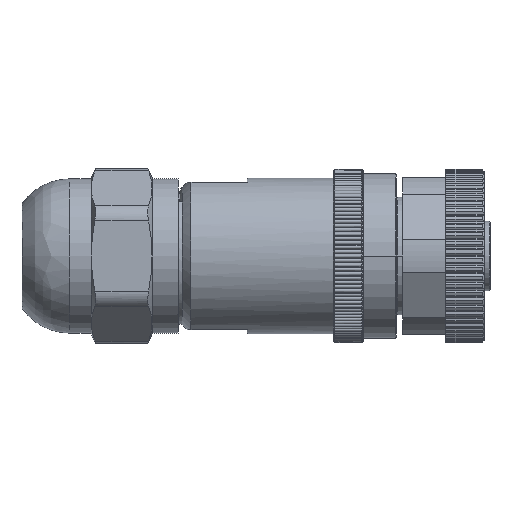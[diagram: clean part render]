
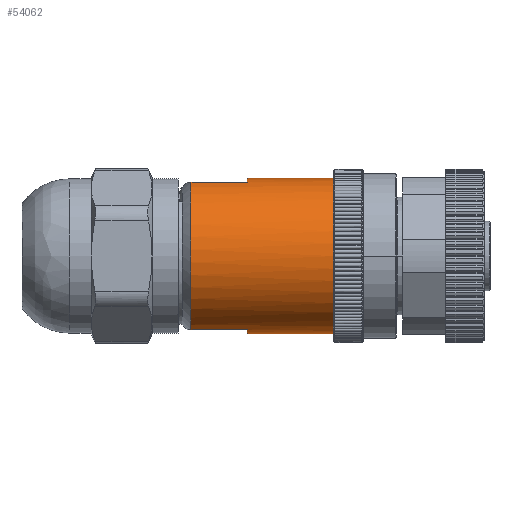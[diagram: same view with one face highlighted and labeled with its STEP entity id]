
A CAD part, left-side view. The second image highlights one B-rep face of the part: STEP entity #54062.
In plain terms, the highlighted cylindrical face has radius 8.95 mm (diameter 17.9 mm), a partial arc.
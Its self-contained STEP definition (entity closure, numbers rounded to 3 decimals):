
#11277=CARTESIAN_POINT('',(0.,5.068,-8.95));
#11279=CARTESIAN_POINT('',(0.,4.757,-8.95));
#13874=CARTESIAN_POINT('',(0.,5.068,-8.95));
#13875=CARTESIAN_POINT('',(-0.268,5.071,-8.95));
#13876=CARTESIAN_POINT('',(-0.805,5.079,
-8.926));
#13877=CARTESIAN_POINT('',(-1.603,5.089,
-8.817));
#13878=CARTESIAN_POINT('',(-2.127,5.096,
-8.698));
#13879=CARTESIAN_POINT('',(-2.386,5.1,-8.626));
#13881=CARTESIAN_POINT('',(0.,5.1,0.));
#13882=DIRECTION('',(0.,-1.,0.));
#13883=DIRECTION('',(-0.267,0.,-0.964));
#13884=AXIS2_PLACEMENT_3D('',#13881,#13882,#13883);
#13886=DIRECTION('',(0.,-1.,0.));
#13887=VECTOR('',#13886,9.9);
#13888=CARTESIAN_POINT('',(0.,15.,-8.95));
#13889=LINE('',#13888,#13887);
#13890=DIRECTION('',(0.,-1.,0.));
#13891=VECTOR('',#13890,6.5);
#13892=CARTESIAN_POINT('',(-2.802,21.5,
-8.5));
#13893=LINE('',#13892,#13891);
#13894=DIRECTION('',(0.,1.,0.));
#13895=VECTOR('',#13894,6.5);
#13896=CARTESIAN_POINT('',(-2.802,15.,8.5));
#13897=LINE('',#13896,#13895);
#13898=DIRECTION('',(0.,-1.,0.));
#13899=VECTOR('',#13898,9.9);
#13900=CARTESIAN_POINT('',(0.,15.,8.95));
#13901=LINE('',#13900,#13899);
#13902=CARTESIAN_POINT('',(0.,5.1,0.));
#13903=DIRECTION('',(0.,-1.,0.));
#13904=DIRECTION('',(0.,0.,1.));
#13905=AXIS2_PLACEMENT_3D('',#13902,#13903,#13904);
#13907=CARTESIAN_POINT('',(-2.386,5.1,8.626));
#13908=CARTESIAN_POINT('',(-2.85,5.094,
8.498));
#13909=CARTESIAN_POINT('',(-3.754,5.081,
8.167));
#13910=CARTESIAN_POINT('',(-4.996,5.062,
7.471));
#13911=CARTESIAN_POINT('',(-6.11,5.043,
6.592));
#13912=CARTESIAN_POINT('',(-7.085,5.024,
5.532));
#13913=CARTESIAN_POINT('',(-7.881,5.005,
4.322));
#13914=CARTESIAN_POINT('',(-8.464,4.986,
3.022));
#13915=CARTESIAN_POINT('',(-8.834,4.967,
1.657));
#13916=CARTESIAN_POINT('',(-8.986,4.948,
0.225));
#13917=CARTESIAN_POINT('',(-8.906,4.928,
-1.217));
#13918=CARTESIAN_POINT('',(-8.599,4.909,
-2.612));
#13919=CARTESIAN_POINT('',(-8.085,4.891,
-3.927));
#13920=CARTESIAN_POINT('',(-7.352,4.871,
-5.173));
#13921=CARTESIAN_POINT('',(-6.427,4.852,
-6.283));
#13922=CARTESIAN_POINT('',(-5.351,4.833,
-7.221));
#13923=CARTESIAN_POINT('',(-4.154,4.815,
-7.97));
#13924=CARTESIAN_POINT('',(-2.822,4.795,
-8.535));
#13925=CARTESIAN_POINT('',(-1.417,4.776,
-8.876));
#13926=CARTESIAN_POINT('',(-0.471,4.763,-8.95));
#13927=CARTESIAN_POINT('',(0.,4.757,-8.95));
#13929=DIRECTION('',(0.,-1.,0.));
#13930=VECTOR('',#13929,0.311);
#13931=CARTESIAN_POINT('',(0.,5.068,-8.95));
#13932=LINE('',#13931,#13930);
#13987=CARTESIAN_POINT('',(0.,15.,0.));
#13988=DIRECTION('',(0.,1.,0.));
#13989=DIRECTION('',(0.,0.,-1.));
#13990=AXIS2_PLACEMENT_3D('',#13987,#13988,#13989);
#14043=CARTESIAN_POINT('',(0.,21.5,0.));
#14044=DIRECTION('',(0.,1.,0.));
#14045=DIRECTION('',(-0.313,0.,-0.95));
#14046=AXIS2_PLACEMENT_3D('',#14043,#14044,#14045);
#37772=CARTESIAN_POINT('',(0.,15.,0.));
#37773=DIRECTION('',(0.,1.,0.));
#37774=DIRECTION('',(-0.313,0.,0.95));
#37775=AXIS2_PLACEMENT_3D('',#37772,#37773,#37774);
#37807=CARTESIAN_POINT('',(-2.802,15.,-8.5));
#37809=VERTEX_POINT('',#37807);
#37810=CARTESIAN_POINT('',(-2.802,15.,8.5));
#37812=VERTEX_POINT('',#37810);
#37970=CARTESIAN_POINT('',(0.,15.,-8.95));
#37971=VERTEX_POINT('',#37970);
#37972=CARTESIAN_POINT('',(0.,15.,8.95));
#37973=VERTEX_POINT('',#37972);
#37974=CARTESIAN_POINT('',(-2.802,21.5,
-8.5));
#37975=VERTEX_POINT('',#37974);
#37976=CARTESIAN_POINT('',(-2.802,21.5,
8.5));
#37977=VERTEX_POINT('',#37976);
#41759=VERTEX_POINT('',#11277);
#41760=VERTEX_POINT('',#11279);
#41762=CARTESIAN_POINT('',(0.,5.1,-8.95));
#41763=CARTESIAN_POINT('',(0.,5.1,8.95));
#41764=VERTEX_POINT('',#41762);
#41765=VERTEX_POINT('',#41763);
#41766=VERTEX_POINT('',#13879);
#41768=VERTEX_POINT('',#13907);
#54038=CARTESIAN_POINT('',(0.,33.5,0.));
#54039=DIRECTION('',(0.,-1.,0.));
#54040=DIRECTION('',(0.,0.,-1.));
#54041=AXIS2_PLACEMENT_3D('',#54038,#54039,#54040);
#54042=CYLINDRICAL_SURFACE('',#54041,8.95);
#54043=ORIENTED_EDGE('',*,*,#51502,.T.);
#54044=ORIENTED_EDGE('',*,*,#49287,.T.);
#54045=ORIENTED_EDGE('',*,*,#50659,.F.);
#54047=ORIENTED_EDGE('',*,*,#54046,.T.);
#54049=ORIENTED_EDGE('',*,*,#54048,.F.);
#54051=ORIENTED_EDGE('',*,*,#54050,.T.);
#54053=ORIENTED_EDGE('',*,*,#54052,.F.);
#54055=ORIENTED_EDGE('',*,*,#54054,.T.);
#54056=ORIENTED_EDGE('',*,*,#50647,.T.);
#54057=ORIENTED_EDGE('',*,*,#49295,.T.);
#54058=ORIENTED_EDGE('',*,*,#53046,.T.);
#54059=ORIENTED_EDGE('',*,*,#50616,.F.);
#54060=EDGE_LOOP('',(#54043,#54044,#54045,#54047,#54049,#54051,#54053,#54055,
#54056,#54057,#54058,#54059));
#54061=FACE_OUTER_BOUND('',#54060,.F.);
#54062=ADVANCED_FACE('',(#54061),#54042,.T.);
#13880=B_SPLINE_CURVE_WITH_KNOTS('',3,(#13874,#13875,#13876,#13877,#13878,
#13879),.UNSPECIFIED.,.F.,.F.,(4,1,1,4),(0.,0.333,
0.667,1.),.UNSPECIFIED.);
#13885=CIRCLE('',#13884,8.95);
#13906=CIRCLE('',#13905,8.95);
#13928=B_SPLINE_CURVE_WITH_KNOTS('',3,(#13907,#13908,#13909,#13910,#13911,
#13912,#13913,#13914,#13915,#13916,#13917,#13918,#13919,#13920,#13921,#13922,
#13923,#13924,#13925,#13926,#13927),.UNSPECIFIED.,.F.,.F.,(4,1,1,1,1,1,1,1,1,1,
1,1,1,1,1,1,1,1,4),(0.,0.056,0.111,0.167,
0.222,0.278,0.333,0.389,
0.444,0.5,0.556,0.611,0.667,
0.722,0.778,0.833,0.889,
0.944,1.),.UNSPECIFIED.);
#13991=CIRCLE('',#13990,8.95);
#14047=CIRCLE('',#14046,8.95);
#37776=CIRCLE('',#37775,8.95);
#49287=EDGE_CURVE('',#41766,#41764,#13885,.T.);
#49295=EDGE_CURVE('',#41765,#41768,#13906,.T.);
#50616=EDGE_CURVE('',#41759,#41760,#13932,.T.);
#50647=EDGE_CURVE('',#37973,#41765,#13901,.T.);
#50659=EDGE_CURVE('',#37971,#41764,#13889,.T.);
#51502=EDGE_CURVE('',#41759,#41766,#13880,.T.);
#53046=EDGE_CURVE('',#41768,#41760,#13928,.T.);
#54046=EDGE_CURVE('',#37971,#37809,#13991,.T.);
#54048=EDGE_CURVE('',#37975,#37809,#13893,.T.);
#54050=EDGE_CURVE('',#37975,#37977,#14047,.T.);
#54052=EDGE_CURVE('',#37812,#37977,#13897,.T.);
#54054=EDGE_CURVE('',#37812,#37973,#37776,.T.);
